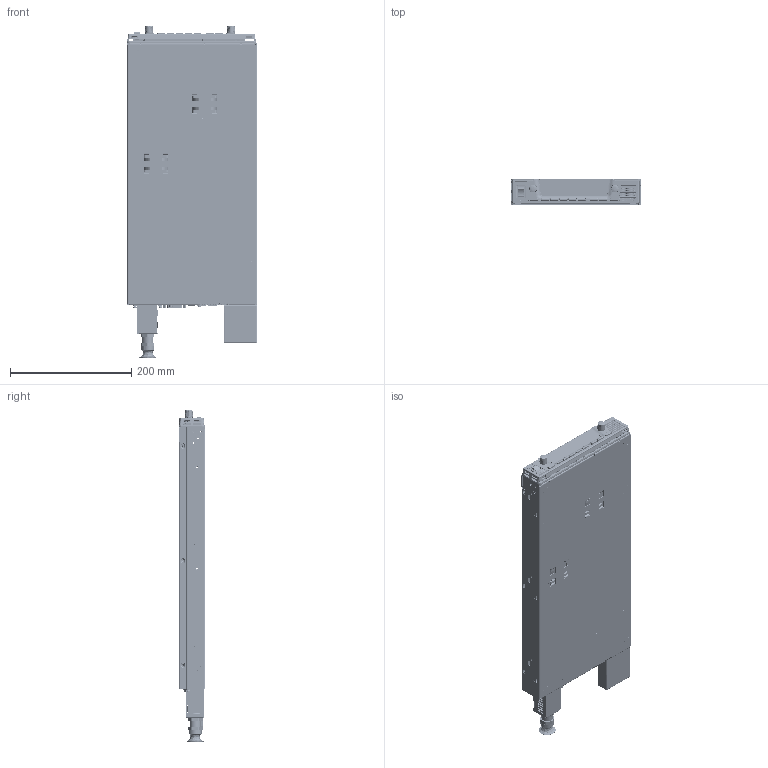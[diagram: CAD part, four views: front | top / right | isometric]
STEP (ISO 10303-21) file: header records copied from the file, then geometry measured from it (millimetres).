
FILE_DESCRIPTION (( 'STEP AP203' ), '1' );
FILE_NAME ('GH ASSEMBLY STANDARD 10-100.STEP', '2019-08-12T08:11:23', ( 'RoamnK' ), ( '' ), 'SwSTEP 2.0', 'SolidWorks 2017', '' );
FILE_SCHEMA (( 'CONFIG_CONTROL_DESIGN' ));
Length unit declared in the file: millimetre
Products named in the file (102): PN-HEAD3x8; PN-HEAD3x6; IA772-50-01_Light; 501331-1007; IA762-32-15-02; USBR-B-S-X-O-TH-R; IA762-32-04; EC11E18344; IA791-32-14; 2013595 assy; SEMS-M3x8; 5952X010XXF; IA791-32-07; PC_5-3-G-7.62; E32_6_20(E); Tape for EI32_6_20; Winstar WD00329-SLL-#00_segments; KA-25x5; SPT-THR-1.5-3-H-3.5_P26; 95540-2881; LED SMD GREEN 0603; GR-WASHER3; IA762-32-02-01_Config 1; IA762-32-14; PLT32_20_3.2; Arcolectric H8550VB Rocker Switch Rocker; Copy of kapton^IA791-51-01; FAN-2-40x28; FL-HEAD3x6; IA762-32-01-01; IA791-32-12; 30843-13; IA707-33-14_REV.C; IA33-96_FOR ASSY; B32921C3104M; GR-WASHER3-; IA33-94; SKRTLA; Arcolectric H8550VB Rocker Switch Housing; FL-HEAD3x6-Lock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
Assembly tree (203 placements, depth 4):
  GH ASSEMBLY STANDARD 10-100
    IA762-32-01-00
      IA762-32-01-01
      IA33-96_FOR ASSY  x17
      SSC-4mm-8  x2
      self-clinching nut_pmm_PEM CLS-M3-0 ---S  x19
    IA763-50-01_outline+connector
      IA763-31-07 
      PC_5-3-G-7.62
    V40S FAN 40x40x28 OPEN FRAME  x2
      FAN-2-40x28
      V40S FRAME
    IA770-50-01
      IA770 PCB_WITH LAN
      USBR-B-S-X-O-TH-R
      26-31024KB91-1 
      501331-1007
      5952X010XXF  x2
      95540-2881  x2
      2013595 assy  x2
        2069552-1
      SKRTLA
      WR-DSUB_simple
      501331-0807
      HMTSW-103-07-T-S-240
        HTSW-50-S-LCP_HTSW-50-S-LCP
        T-1S6-X_-15
        T-1S6-X_-15
        T-1S6-X_-15
      FTSH-105-01-F-DV-K
      501331-1207_5.6
      TACT SWITCH
      _FTSH_105_01_F_DV_K_P_pp_pad_8
    IA762-32-12
    IA762-32-05
    IA762-32-04
    IA791-51-01
      IA791-50-01_LIGHT
        501190-2017_WITHOUT TAPE
        B32921C3104M  x4
        C-12.5x31.5  x4
        IA791-32-13
        IA791-32-05   x2
        SPT-THR-1.5-3-H-3.5_P26
        501331-1507
        IA791-32-12
        IA791-31-07
        501331-1207_5.6
        IA791-32-14  x2
        501568-1407
        FKX20X7R1
      IA791-32-09
      SEMS-M3x6-  x7
        PN-HEAD3x6
        GR-WASHER3-
        PL--WAS-M3
      IA791-32-07
      SEMS-M3x6  x2
      PCC-03  x2
      Copy of kapton^IA791-51-01
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Bounding box: 214.54 x 43.62 x 546.87 mm (x, y, z)
Volume: 570260.5 mm3; surface area: 835925.3 mm2
Topology: 600 solids, 658 shells, 31963 faces, 84115 edges, 53874 vertices
Faces by surface type: plane 20854, cylinder 5826, cone 3629, bspline 1078, torus 432, sphere 144
Entity records: 770407 total; most frequent: CARTESIAN_POINT 182228, ORIENTED_EDGE 122574, DIRECTION 112365, EDGE_CURVE 61898, LINE 48489, VECTOR 48489, VERTEX_POINT 40229, AXIS2_PLACEMENT_3D 31938
